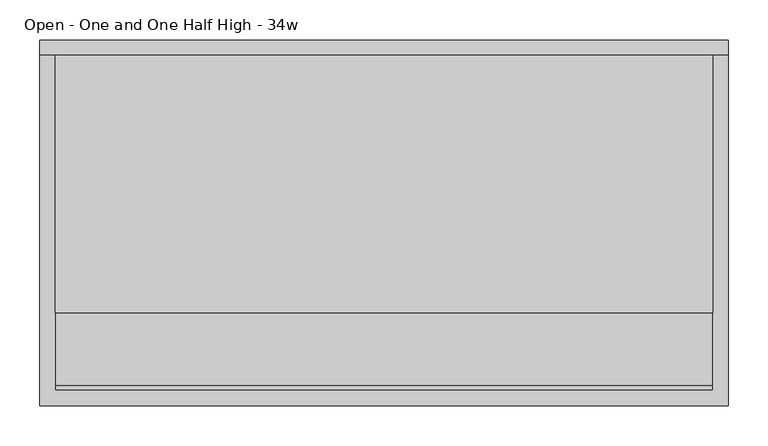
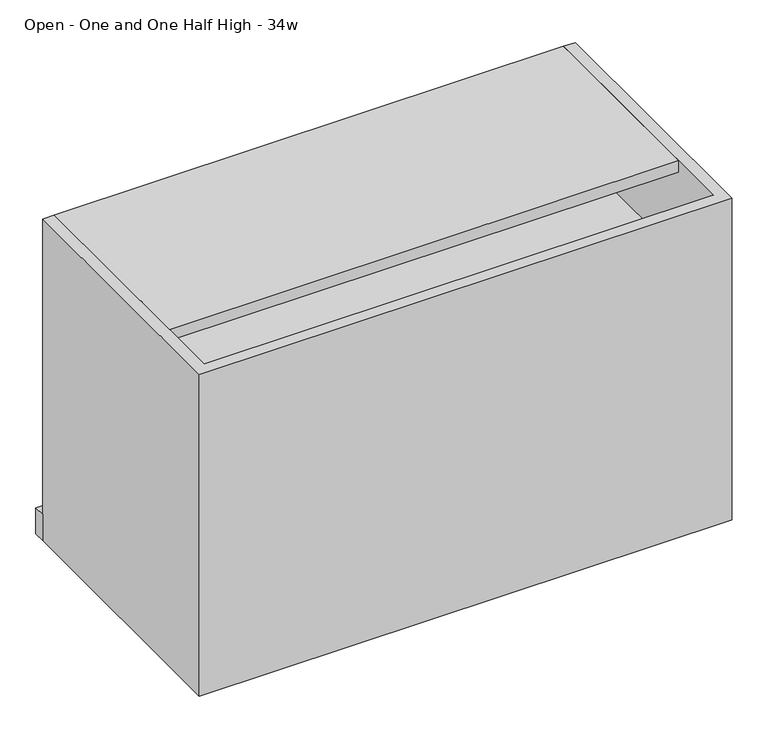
"""IFC4 building model written with IfcOpenShell, lengths in millimetres: furniture geometry, Haworth_Masters_AttachedStorage : Open - One and One Half High - 34w."""

import ifcopenshell
import ifcopenshell.guid

model = None  # the IFC model being written
_history = None  # IfcOwnerHistory: only IFC2X3 demands one
_inside = {}  # id of a spatial element -> (the spatial element, [elements in it])
_under = {}  # id of a project, library or spatial element -> (it, [spatial elements below it])
_declared = {}  # id of a project -> (the project, [libraries it declares])
_typed = {}  # id of a type object -> (the type object, [elements of that type])
_made_of = {}  # id of a material, layer set ... -> (it, [elements and type objects made of it])


def new_model(schema):
    """Start an empty IFC model of exactly this schema.

    Asked for "IFC4X3", IfcOpenShell would pick the latest addendum, in which some entities
    have other attributes; the version numbers below select the first issue.
    IFC2X3 requires an IfcOwnerHistory on every rooted entity: one is made here for all.
    """
    global model, _history
    if schema == "IFC4X3":
        model = ifcopenshell.file(schema_version=(4, 3, 0, 0))
    else:
        model = ifcopenshell.file(schema=schema)
    _inside.clear()
    _under.clear()
    _declared.clear()
    _typed.clear()
    _made_of.clear()
    _history = None
    if model.schema == "IFC2X3":
        org = make("IfcOrganization", Name="unknown")
        user = make(
            "IfcPersonAndOrganization",
            ThePerson=make("IfcPerson", FamilyName="unknown"),
            TheOrganization=org,
        )
        app = make(
            "IfcApplication",
            ApplicationDeveloper=org,
            Version="unknown",
            ApplicationFullName="unknown",
            ApplicationIdentifier="unknown",
        )
        _history = make(
            "IfcOwnerHistory",
            OwningUser=user,
            OwningApplication=app,
            ChangeAction="ADDED",
            CreationDate=0,
        )
    return model


def make(cls, **values):
    """One entity of the class cls with the attributes given. An attribute that is None is left unset."""
    return model.create_entity(
        cls, **{name: value for name, value in values.items() if value is not None}
    )


def rooted(cls, **values):
    """An entity with a GlobalId (a new one), such as an element, a storey or a relation."""
    return make(cls, GlobalId=ifcopenshell.guid.new(), OwnerHistory=_history, **values)


def si_unit(unit_type, name, prefix=None):
    """IfcSIUnit, for example si_unit("LENGTHUNIT", "METRE", prefix="MILLI")."""
    return make("IfcSIUnit", UnitType=unit_type, Prefix=prefix, Name=name)


def assignment(units):
    """IfcUnitAssignment: the units of a project."""
    return None if units is None else make("IfcUnitAssignment", Units=units)


def point(xyz):
    """IfcCartesianPoint."""
    return None if xyz is None else make("IfcCartesianPoint", Coordinates=xyz)


def direction(xyz):
    """IfcDirection."""
    return None if xyz is None else make("IfcDirection", DirectionRatios=xyz)


def frame(location, z_axis=None, x_axis=None):
    """IfcAxis2Placement3D, a coordinate frame: its origin and axes. An axis left out is left unset."""
    return make(
        "IfcAxis2Placement3D",
        Location=point(location),
        Axis=direction(z_axis),
        RefDirection=direction(x_axis),
    )


def origin():
    """The frame at (0, 0, 0) with its axes left unset."""
    return frame((0.0, 0.0, 0.0))


def origin_with_axes():
    """The frame at (0, 0, 0) with the z axis (0, 0, 1) and the x axis (1, 0, 0) written out."""
    return frame((0.0, 0.0, 0.0), z_axis=(0.0, 0.0, 1.0), x_axis=(1.0, 0.0, 0.0))


def place(relative_to, where):
    """IfcLocalPlacement: puts the frame where relative to a parent placement (None: the world)."""
    return make(
        "IfcLocalPlacement", PlacementRelTo=relative_to, RelativePlacement=where
    )


def context(
    kind, dimensions, precision=None, world=None, true_north=None, identifier=None
):
    """IfcGeometricRepresentationContext, for example the 3D "Model" context."""
    return make(
        "IfcGeometricRepresentationContext",
        ContextIdentifier=identifier,
        ContextType=kind,
        CoordinateSpaceDimension=dimensions,
        Precision=precision,
        WorldCoordinateSystem=world,
        TrueNorth=true_north,
    )


def project(units=None, contexts=None):
    """IfcProject with its units and contexts."""
    return rooted(
        "IfcProject",
        Name="project",
        RepresentationContexts=contexts,
        UnitsInContext=assignment(units),
    )


def spatial(cls, under=None, at=None, **own):
    """A site, building, storey or space (cls), placed at a placement, below another one or the project."""
    s = rooted(cls, ObjectPlacement=at, **own)
    if under is not None:
        _under.setdefault(under.id(), (under, []))[1].append(s)
    return s


def polyline(points):
    """IfcPolyline through the points."""
    return make("IfcPolyline", Points=[point(p) for p in points])


def outline(outer, holes=None, kind="AREA"):
    """IfcArbitraryClosedProfileDef: a profile drawn as a closed curve; with holes, ...WithVoids."""
    if holes is None:
        return make("IfcArbitraryClosedProfileDef", ProfileType=kind, OuterCurve=outer)
    return make(
        "IfcArbitraryProfileDefWithVoids",
        ProfileType=kind,
        OuterCurve=outer,
        InnerCurves=holes,
    )


def extrude(swept, where, along, depth):
    """IfcExtrudedAreaSolid: the profile swept, set in the frame where, extruded along a direction by depth."""
    return make(
        "IfcExtrudedAreaSolid",
        SweptArea=swept,
        Position=where,
        ExtrudedDirection=direction(along),
        Depth=depth,
    )


def shape(context_of_items, identifier, shape_type, items):
    """IfcShapeRepresentation: the items that make up one representation, for example the "Body"."""
    return make(
        "IfcShapeRepresentation",
        ContextOfItems=context_of_items,
        RepresentationIdentifier=identifier,
        RepresentationType=shape_type,
        Items=items,
    )


def source(mapping_origin, context_of_items, identifier, shape_type, items):
    """IfcRepresentationMap: a shape defined once, which mapped items show again and again."""
    return make(
        "IfcRepresentationMap",
        MappingOrigin=mapping_origin,
        MappedRepresentation=shape(context_of_items, identifier, shape_type, items),
    )


def transform(
    local_origin,
    x_axis=None,
    y_axis=None,
    z_axis=None,
    scale=None,
    scale2=None,
    scale3=None,
    uniform=True,
):
    """IfcCartesianTransformationOperator3D, or its non-uniform kind. x_axis, y_axis, z_axis: its Axis1, 2, 3."""
    if uniform:
        return make(
            "IfcCartesianTransformationOperator3D",
            Axis1=direction(x_axis),
            Axis2=direction(y_axis),
            LocalOrigin=point(local_origin),
            Scale=scale,
            Axis3=direction(z_axis),
        )
    return make(
        "IfcCartesianTransformationOperator3DnonUniform",
        Axis1=direction(x_axis),
        Axis2=direction(y_axis),
        LocalOrigin=point(local_origin),
        Scale=scale,
        Axis3=direction(z_axis),
        Scale2=scale2,
        Scale3=scale3,
    )


def mapped(mapping_source, mapping_target):
    """IfcMappedItem: shows the shape of a source again, moved by a transform."""
    return make(
        "IfcMappedItem", MappingSource=mapping_source, MappingTarget=mapping_target
    )


def made_of(thing, what):
    """Note that an element or type object is made of a material, layer set ...; save() writes the relation."""
    if what is not None:
        _made_of.setdefault(what.id(), (what, []))[1].append(thing)
    return thing


def element(
    cls,
    number,
    at=None,
    inside=None,
    cuts=None,
    type_object=None,
    material=None,
    context=None,
    identifier="Body",
    shape_type=None,
    held_by="IfcProductDefinitionShape",
    body=None,
    shapes=None,
    **own,
):
    """One element of the class cls, such as IfcWall. Its Tag is "e" and its number.

    at: its placement. inside: the storey or other place that contains it. cuts: it is an
    opening in that element (IfcRelVoidsElement). A single representation is given by context,
    identifier, shape_type and body (its items); several are given by shapes. held_by: the class
    of the entity that holds the representations. save() writes the other relations.
    """
    e = rooted(cls, Tag="e%d" % number, ObjectPlacement=at, **own)
    if body is not None:
        shapes = [shape(context, identifier, shape_type, body)]
    if shapes is not None:
        e.Representation = make(held_by, Representations=shapes)
    if inside is not None:
        _inside.setdefault(inside.id(), (inside, []))[1].append(e)
    if cuts is not None:
        rooted(
            "IfcRelVoidsElement", RelatingBuildingElement=cuts, RelatedOpeningElement=e
        )
    if type_object is not None:
        _typed.setdefault(type_object.id(), (type_object, []))[1].append(e)
    return made_of(e, material)


def aggregate(whole, parts):
    """IfcRelAggregates: a whole, such as a stair, and the parts it consists of."""
    return rooted("IfcRelAggregates", RelatingObject=whole, RelatedObjects=parts)


def save(model, path):
    """Write the relations noted so far, then the file.

    IfcRelAggregates (storeys below a building ...), IfcRelContainedInSpatialStructure (elements
    in a storey), IfcRelDefinesByType, IfcRelAssociatesMaterial and IfcRelDeclares: one each for
    every whole, place, type object, material and project.
    """
    for whole, parts in _under.values():
        aggregate(whole, parts)
    for where, things in _inside.values():
        rooted(
            "IfcRelContainedInSpatialStructure",
            RelatedElements=things,
            RelatingStructure=where,
        )
    for kind, things in _typed.values():
        rooted("IfcRelDefinesByType", RelatedObjects=things, RelatingType=kind)
    for what, things in _made_of.values():
        rooted("IfcRelAssociatesMaterial", RelatedObjects=things, RelatingMaterial=what)
    for by, libraries in _declared.values():
        rooted("IfcRelDeclares", RelatingContext=by, RelatedDefinitions=libraries)
    model.write(path)


def open_one_and_one_half_high_34w_3a4066d6(model_context):
    return source(origin(), model_context, "Body", "SweptSolid", [
        extrude(outline(polyline([(490.5375, 120.65), (-331.7875, 120.65), (-331.7875, 539.75), (490.5375, 539.75), (490.5375, 120.65)])), origin_with_axes(), (0.0, 0.0, 1.0), 44.45),
        extrude(outline(polyline([(490.5375, 127.0), (-331.7875, 127.0), (-331.7875, 539.75), (490.5375, 539.75), (490.5375, 127.0)])), frame((0.0, 0.0, 369.8875), z_axis=(0.0, 0.0, 1.0), x_axis=(1.0, 0.0, 0.0)), (0.0, 0.0, 1.0), 19.05),
        extrude(outline(polyline([(509.5875, 539.75), (-350.8375, 539.75), (-350.8375, 558.8), (509.5875, 558.8), (509.5875, 539.75)])), origin_with_axes(), (0.0, 0.0, 1.0), 44.45),
        extrude(outline(polyline([(490.5375, 217.4875), (-331.7875, 217.4875), (-331.7875, 539.75), (490.5375, 539.75), (490.5375, 217.4875)])), frame((0.0, 0.0, 530.225), z_axis=(0.0, 0.0, 1.0), x_axis=(1.0, 0.0, 0.0)), (0.0, 0.0, 1.0), 19.05),
        extrude(outline(polyline([(509.5875, 101.6), (-350.8375, 101.6), (-350.8375, 539.75), (-331.7875, 539.75), (-331.7875, 120.65), (490.5375, 120.65), (490.5375, 539.75), (509.5875, 539.75), (509.5875, 101.6)])), origin_with_axes(), (0.0, 0.0, 1.0), 549.275),
    ])


if __name__ == "__main__":
    model = new_model("IFC4")
    model_context = context("Model", 3, world=origin())
    ifc_project = project(units=[si_unit("LENGTHUNIT", "METRE", prefix="MILLI")], contexts=[model_context])
    site = spatial("IfcSite", under=ifc_project)
    building = spatial("IfcBuilding", under=site)
    placement = place(None, origin())
    open_one_and_one_half_high_34w_shape = open_one_and_one_half_high_34w_3a4066d6(model_context)
    element("IfcFurniture", 1, ObjectType="Haworth_Masters_AttachedStorage : Open - One and One Half High - 34w", at=placement, inside=building, context=model_context, shape_type="MappedRepresentation", body=[
        mapped(open_one_and_one_half_high_34w_shape, transform((0.0, 0.0, 0.0), x_axis=(1.0, 0.0, 0.0), y_axis=(0.0, 1.0, 0.0), z_axis=(0.0, 0.0, 1.0))),
    ])
    save(model, "model.ifc")
